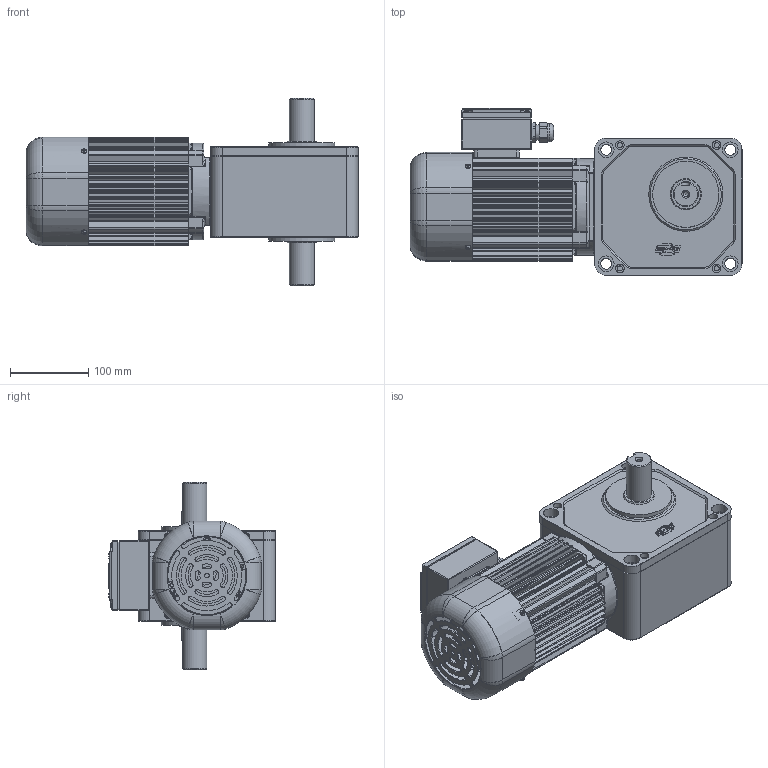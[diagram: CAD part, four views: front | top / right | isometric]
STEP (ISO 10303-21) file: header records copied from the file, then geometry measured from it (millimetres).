
FILE_DESCRIPTION(/* description */ (''),/* implementation_level */ '2;1');
FILE_NAME(/* name */ 'Z:\동력 3D 파일\PCS32B_0.4kW_Brake_3D.stp',/* time_stamp */ '2021-11-09T11:32:43+09:00',/* author */ ('jaebok'),/* organization */ (''),/* preprocessor_version */ 'ST-DEVELOPER v18.1',/* originating_system */ 'Autodesk Inventor 2022',/* authorisation */ '');
FILE_SCHEMA (('AUTOMOTIVE_DESIGN { 1 0 10303 214 3 1 1 }'));
Products named in the file (1): 부품56
Bounding box: 425.5 x 214 x 240 mm (x, y, z)
Volume: 2904068 mm3; surface area: 719602 mm2
Topology: 2 solids, 18 shells, 2031 faces, 5163 edges, 3227 vertices
Faces by surface type: plane 904, cylinder 782, torus 114, cone 107, bspline 96, sphere 28
Full cylindrical faces by diameter (mm): 1.5 x2, 2 x4, 3 x8, 3.242 x5, 3.25 x1, 3.3 x4, 3.6 x4, 3.8 x3, 4 x25, 4.2 x8, 5 x19, 5.8 x2, 5.9 x3, 6 x18, 6.4 x1, 6.5 x10, 6.647 x2, 7 x12, 7.9 x6, 8 x3, 8.5 x1, 8.7 x1, 10 x1, 11 x4, 12.5 x1, 14 x4, 15 x1, 18 x1, 20 x14, 21 x1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
Entity records: 68788 total; most frequent: CARTESIAN_POINT 17450, DIRECTION 10777, ORIENTED_EDGE 10198, EDGE_CURVE 5099, AXIS2_PLACEMENT_3D 4130, VERTEX_POINT 3224, LINE 2517, VECTOR 2517
